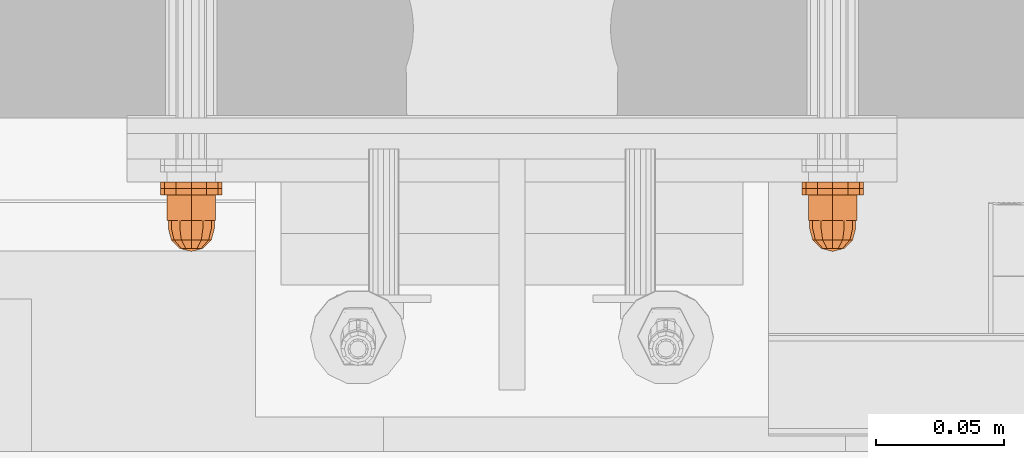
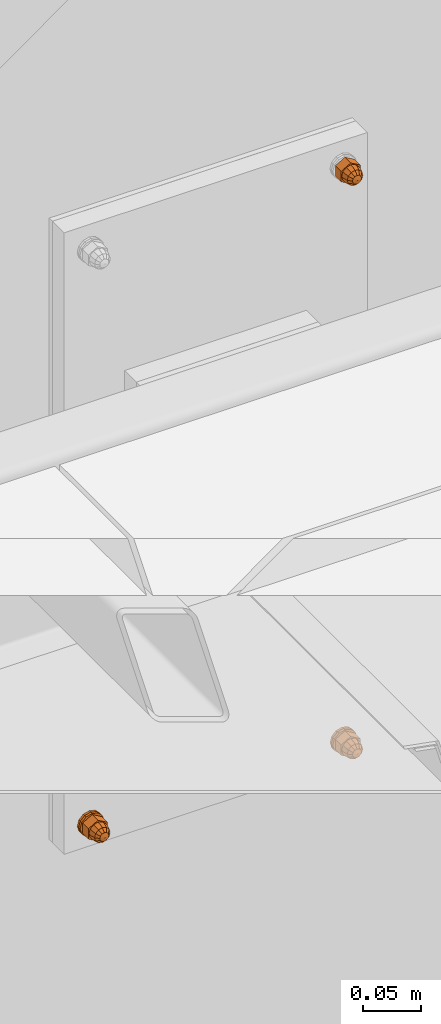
# One storey, part 157 of 162: 7 proxies.
"""IFC2X3 building model written with IfcOpenShell, lengths in millimetres."""

from ifc_helpers import new_model, entity, si_unit, converted_unit, origin_with_axes, place, context, project, spatial, faceted_brep, material, element, save


model = new_model("IFC2X3")

# Units and contexts
model_context = context("Model", 3, precision=1e-09, world=origin_with_axes())
ifc_project = project(units=[si_unit("LENGTHUNIT", "METRE", prefix="MILLI"), si_unit("AREAUNIT", "SQUARE_METRE"), si_unit("VOLUMEUNIT", "CUBIC_METRE"), converted_unit("PLANEANGLEUNIT", "DEGREE", entity("IfcPlaneAngleMeasure", 0.01745329), si_unit("PLANEANGLEUNIT", "RADIAN"), dimensions=[0, 0, 0, 0, 0, 0, 0])], contexts=[model_context])

# Site, building, storey
site_placement = place(None, origin_with_axes())
site = spatial("IfcSite", under=ifc_project, at=site_placement, Name="Hermannstra?e 1a, 60318 Frankfurt", CompositionType="ELEMENT")
building_placement = place(site_placement, origin_with_axes())
building = spatial("IfcBuilding", under=site, at=building_placement, Name="Struktur 1", CompositionType="ELEMENT")
storey_placement = place(building_placement, origin_with_axes())
storey = spatial("IfcBuildingStorey", under=building, at=storey_placement, Name="Default Storey", CompositionType="ELEMENT", Elevation=0.0)

# Proxies
ifc_material_1 = material(Name="Kunststoff")
proxy_1_placement = place(None, origin_with_axes())
element("IfcBuildingElementProxy", 1, at=proxy_1_placement, inside=storey, material=ifc_material_1, ObjectType="-", context=model_context, shape_type="Brep", body=[
    faceted_brep([(5708.702376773, 2710.610081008, 3486.0), (5708.702376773, 2708.110081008, 3486.0), (5710.310071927, 2708.110081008, 3480.0), (5710.310071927, 2710.610081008, 3480.0), (5703.939237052, 2710.610081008, 3483.25), (5701.560071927, 2710.610081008, 3485.629165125), (5698.310071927, 2710.610081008, 3486.5), (5695.060071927, 2710.610081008, 3485.629165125), (5692.680906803, 2710.610081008, 3483.25), (5691.810071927, 2710.610081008, 3480.0), (5692.680906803, 2710.610081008, 3476.75), (5695.060071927, 2710.610081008, 3474.370834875), (5698.310071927, 2710.610081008, 3473.5), (5701.560071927, 2710.610081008, 3474.370834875), (5703.939237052, 2710.610081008, 3476.75), (5704.810071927, 2710.610081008, 3480.0), (5704.810071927, 2708.110081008, 3480.0), (5703.939237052, 2708.110081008, 3483.25), (5704.310071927, 2708.110081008, 3490.392304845), (5698.310071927, 2708.110081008, 3492.0), (5692.310071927, 2708.110081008, 3490.392304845), (5687.917767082, 2708.110081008, 3486.0), (5686.310071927, 2708.110081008, 3480.0), (5687.917767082, 2708.110081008, 3474.0), (5692.310071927, 2708.110081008, 3469.607695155), (5698.310071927, 2708.110081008, 3468.0), (5704.310071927, 2708.110081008, 3469.607695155), (5708.702376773, 2708.110081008, 3474.0), (5704.310071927, 2710.610081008, 3490.392304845), (5703.939237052, 2708.110081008, 3476.75), (5708.702376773, 2710.610081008, 3474.0), (5701.560071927, 2708.110081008, 3485.629165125), (5698.310071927, 2710.610081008, 3492.0), (5701.560071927, 2708.110081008, 3474.370834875), (5704.310071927, 2710.610081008, 3469.607695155), (5698.310071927, 2708.110081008, 3486.5), (5698.310071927, 2708.110081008, 3473.5), (5692.310071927, 2710.610081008, 3490.392304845), (5695.060071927, 2708.110081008, 3485.629165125), (5698.310071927, 2710.610081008, 3468.0), (5695.060071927, 2708.110081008, 3474.370834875), (5687.917767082, 2710.610081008, 3486.0), (5692.680906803, 2708.110081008, 3483.25), (5692.310071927, 2710.610081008, 3469.607695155), (5692.680906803, 2708.110081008, 3476.75), (5686.310071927, 2710.610081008, 3480.0), (5691.810071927, 2708.110081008, 3480.0), (5687.917767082, 2710.610081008, 3474.0)], [[[0, 1, 2, 3]], [[4, 5, 6, 7, 8, 9, 10, 11, 12, 13, 14, 15]], [[15, 16, 17, 4]], [[1, 18, 19, 20, 21, 22, 23, 24, 25, 26, 27, 2]], [[1, 0, 28, 18]], [[16, 15, 14, 29]], [[3, 2, 27, 30]], [[4, 17, 31, 5]], [[18, 28, 32, 19]], [[29, 14, 13, 33]], [[30, 27, 26, 34]], [[5, 31, 35, 6]], [[33, 13, 12, 36]], [[19, 32, 37, 20]], [[6, 35, 38, 7]], [[34, 26, 25, 39]], [[36, 12, 11, 40]], [[20, 37, 41, 21]], [[7, 38, 42, 8]], [[39, 25, 24, 43]], [[40, 11, 10, 44]], [[21, 41, 45, 22]], [[8, 42, 46, 9]], [[43, 24, 23, 47]], [[44, 10, 9, 46]], [[22, 45, 47, 23]]]),
])
ifc_material_2 = material(Name="A4")
proxy_2_placement = place(None, origin_with_axes())
element("IfcBuildingElementProxy", 2, at=proxy_2_placement, inside=storey, material=ifc_material_2, ObjectType="-", context=model_context, shape_type="Brep", body=[
    faceted_brep([(5687.917767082, 2708.110081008, 3486.0), (5687.917767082, 2705.610081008, 3486.0), (5692.310071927, 2705.610081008, 3490.392304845), (5692.310071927, 2708.110081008, 3490.392304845), (5686.310071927, 2705.610081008, 3480.0), (5687.917767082, 2705.610081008, 3474.0), (5692.310071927, 2705.610081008, 3469.607695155), (5698.310071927, 2705.610081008, 3468.0), (5704.310071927, 2705.610081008, 3469.607695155), (5708.702376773, 2705.610081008, 3474.0), (5710.310071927, 2705.610081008, 3480.0), (5708.702376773, 2705.610081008, 3486.0), (5704.310071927, 2705.610081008, 3490.392304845), (5698.310071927, 2705.610081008, 3492.0), (5698.310071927, 2705.610081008, 3486.5), (5701.560071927, 2705.610081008, 3485.629165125), (5703.939237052, 2705.610081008, 3483.25), (5704.810071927, 2705.610081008, 3480.0), (5703.939237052, 2705.610081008, 3476.75), (5701.560071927, 2705.610081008, 3474.370834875), (5698.310071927, 2705.610081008, 3473.5), (5695.060071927, 2705.610081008, 3474.370834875), (5692.680906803, 2705.610081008, 3476.75), (5691.810071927, 2705.610081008, 3480.0), (5692.680906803, 2705.610081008, 3483.25), (5695.060071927, 2705.610081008, 3485.629165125), (5692.680906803, 2708.110081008, 3483.25), (5691.810071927, 2708.110081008, 3480.0), (5692.680906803, 2708.110081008, 3476.75), (5695.060071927, 2708.110081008, 3474.370834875), (5698.310071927, 2708.110081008, 3473.5), (5701.560071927, 2708.110081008, 3474.370834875), (5703.939237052, 2708.110081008, 3476.75), (5704.810071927, 2708.110081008, 3480.0), (5703.939237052, 2708.110081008, 3483.25), (5701.560071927, 2708.110081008, 3485.629165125), (5698.310071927, 2708.110081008, 3486.5), (5695.060071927, 2708.110081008, 3485.629165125), (5686.310071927, 2708.110081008, 3480.0), (5698.310071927, 2708.110081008, 3492.0), (5687.917767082, 2708.110081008, 3474.0), (5704.310071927, 2708.110081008, 3490.392304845), (5692.310071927, 2708.110081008, 3469.607695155), (5708.702376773, 2708.110081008, 3486.0), (5698.310071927, 2708.110081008, 3468.0), (5710.310071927, 2708.110081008, 3480.0), (5704.310071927, 2708.110081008, 3469.607695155), (5708.702376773, 2708.110081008, 3474.0)], [[[0, 1, 2, 3]], [[2, 1, 4, 5, 6, 7, 8, 9, 10, 11, 12, 13], [14, 15, 16, 17, 18, 19, 20, 21, 22, 23, 24, 25]], [[26, 27, 28, 29, 30, 31, 32, 33, 34, 35, 36, 37]], [[24, 26, 37, 25]], [[1, 0, 38, 4]], [[26, 24, 23, 27]], [[25, 37, 36, 14]], [[3, 2, 13, 39]], [[4, 38, 40, 5]], [[27, 23, 22, 28]], [[14, 36, 35, 15]], [[39, 13, 12, 41]], [[5, 40, 42, 6]], [[28, 22, 21, 29]], [[15, 35, 34, 16]], [[41, 12, 11, 43]], [[33, 17, 16, 34]], [[6, 42, 44, 7]], [[29, 21, 20, 30]], [[32, 18, 17, 33]], [[43, 11, 10, 45]], [[19, 31, 30, 20]], [[18, 32, 31, 19]], [[7, 44, 46, 8]], [[45, 10, 9, 47]], [[8, 46, 47, 9]]]),
])
proxy_3_placement = place(None, origin_with_axes())
element("IfcBuildingElementProxy", 3, at=proxy_3_placement, inside=storey, material=ifc_material_2, ObjectType="-", context=model_context, shape_type="Brep", body=[
    faceted_brep([(5704.310071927, 2695.610081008, 3480.0), (5704.310071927, 2705.610081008, 3480.0), (5703.50622435, 2705.610081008, 3477.0), (5703.50622435, 2695.610081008, 3477.0), (5701.310071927, 2705.610081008, 3474.803847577), (5701.310071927, 2695.610081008, 3474.803847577), (5703.50622435, 2695.610081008, 3483.0), (5703.50622435, 2705.610081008, 3483.0), (5707.789941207, 2705.610081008, 3485.473205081), (5707.789941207, 2705.610081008, 3474.526794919), (5698.310071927, 2705.610081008, 3469.053589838), (5688.830202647, 2705.610081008, 3474.526794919), (5688.830202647, 2705.610081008, 3485.473205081), (5698.310071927, 2705.610081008, 3490.946410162), (5701.310071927, 2705.610081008, 3485.196152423), (5698.310071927, 2705.610081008, 3486.0), (5695.310071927, 2705.610081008, 3485.196152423), (5693.113919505, 2705.610081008, 3483.0), (5692.310071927, 2705.610081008, 3480.0), (5693.113919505, 2705.610081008, 3477.0), (5695.310071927, 2705.610081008, 3474.803847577), (5698.310071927, 2705.610081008, 3474.0), (5707.789941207, 2695.610081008, 3485.473205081), (5698.310071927, 2695.610081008, 3490.946410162), (5688.830202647, 2695.610081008, 3485.473205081), (5688.830202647, 2695.610081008, 3474.526794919), (5698.310071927, 2695.610081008, 3469.053589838), (5707.789941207, 2695.610081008, 3474.526794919), (5701.310071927, 2695.610081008, 3485.196152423), (5698.310071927, 2695.610081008, 3474.0), (5698.310071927, 2695.610081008, 3486.0), (5695.310071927, 2695.610081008, 3474.803847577), (5695.310071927, 2695.610081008, 3485.196152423), (5693.113919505, 2695.610081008, 3477.0), (5693.113919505, 2695.610081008, 3483.0), (5692.310071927, 2695.610081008, 3480.0)], [[[0, 1, 2, 3]], [[3, 2, 4, 5]], [[1, 0, 6, 7]], [[8, 9, 10, 11, 12, 13], [7, 14, 15, 16, 17, 18, 19, 20, 21, 4, 2, 1]], [[22, 23, 24, 25, 26, 27]], [[7, 6, 28, 14]], [[22, 27, 9, 8]], [[5, 4, 21, 29]], [[10, 9, 27, 26]], [[14, 28, 30, 15]], [[23, 22, 8, 13]], [[29, 21, 20, 31]], [[11, 10, 26, 25]], [[15, 30, 32, 16]], [[24, 23, 13, 12]], [[31, 20, 19, 33]], [[25, 24, 12, 11]], [[16, 32, 34, 17]], [[33, 19, 18, 35]], [[17, 34, 35, 18]]]),
    faceted_brep([(5698.310071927, 2692.610081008, 3489.0), (5698.310071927, 2695.610081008, 3489.0), (5693.810071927, 2695.610081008, 3487.794228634), (5693.810071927, 2692.610081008, 3487.794228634), (5702.810071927, 2692.610081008, 3487.794228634), (5702.810071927, 2695.610081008, 3487.794228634), (5702.810071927, 2692.610081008, 3472.205771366), (5706.104300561, 2692.610081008, 3475.5), (5707.310071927, 2692.610081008, 3480.0), (5706.104300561, 2692.610081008, 3484.5), (5690.515843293, 2692.610081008, 3484.5), (5689.310071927, 2692.610081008, 3480.0), (5690.515843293, 2692.610081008, 3475.5), (5693.810071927, 2692.610081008, 3472.205771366), (5698.310071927, 2692.610081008, 3471.0), (5693.810071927, 2695.610081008, 3472.205771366), (5690.515843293, 2695.610081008, 3475.5), (5689.310071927, 2695.610081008, 3480.0), (5690.515843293, 2695.610081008, 3484.5), (5706.104300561, 2695.610081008, 3484.5), (5707.310071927, 2695.610081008, 3480.0), (5706.104300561, 2695.610081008, 3475.5), (5702.810071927, 2695.610081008, 3472.205771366), (5698.310071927, 2695.610081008, 3471.0)], [[[0, 1, 2, 3]], [[1, 0, 4, 5]], [[6, 7, 8, 9, 4, 0, 3, 10, 11, 12, 13, 14]], [[15, 16, 17, 18, 2, 1, 5, 19, 20, 21, 22, 23]], [[3, 2, 18, 10]], [[5, 4, 9, 19]], [[10, 18, 17, 11]], [[19, 9, 8, 20]], [[22, 6, 14, 23]], [[7, 21, 20, 8]], [[6, 22, 21, 7]], [[11, 17, 16, 12]], [[23, 14, 13, 15]], [[12, 16, 15, 13]]]),
    faceted_brep([(5705.060071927, 2688.110081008, 3483.897114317), (5706.104300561, 2692.610081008, 3484.5), (5702.810071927, 2692.610081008, 3487.794228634), (5702.207186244, 2688.110081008, 3486.75), (5693.810071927, 2692.610081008, 3472.205771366), (5690.515843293, 2692.610081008, 3475.5), (5689.310071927, 2692.610081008, 3480.0), (5690.515843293, 2692.610081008, 3484.5), (5693.810071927, 2692.610081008, 3487.794228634), (5698.310071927, 2692.610081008, 3489.0), (5707.310071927, 2692.610081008, 3480.0), (5706.104300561, 2692.610081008, 3475.5), (5702.810071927, 2692.610081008, 3472.205771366), (5698.310071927, 2692.610081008, 3471.0), (5698.310071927, 2688.110081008, 3487.794228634), (5702.810071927, 2684.815852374, 3480.0), (5706.104300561, 2688.110081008, 3480.0), (5702.207186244, 2684.815852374, 3482.25), (5694.41295761, 2688.110081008, 3486.75), (5700.560071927, 2684.815852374, 3483.897114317), (5702.207186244, 2684.815852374, 3477.75), (5705.060071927, 2688.110081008, 3476.102885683), (5698.310071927, 2684.815852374, 3484.5), (5698.310071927, 2683.610081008, 3480.0), (5700.560071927, 2684.815852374, 3476.102885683), (5702.207186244, 2688.110081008, 3473.25), (5698.310071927, 2688.110081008, 3472.205771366), (5691.560071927, 2688.110081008, 3483.897114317), (5696.060071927, 2684.815852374, 3483.897114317), (5698.310071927, 2684.815852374, 3475.5), (5694.41295761, 2688.110081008, 3473.25), (5696.060071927, 2684.815852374, 3476.102885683), (5690.515843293, 2688.110081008, 3480.0), (5694.41295761, 2684.815852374, 3482.25), (5691.560071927, 2688.110081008, 3476.102885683), (5694.41295761, 2684.815852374, 3477.75), (5693.810071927, 2684.815852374, 3480.0)], [[[0, 1, 2, 3]], [[4, 5, 6, 7, 8, 9, 2, 1, 10, 11, 12, 13]], [[3, 2, 9, 14]], [[15, 16, 0, 17]], [[1, 0, 16, 10]], [[14, 9, 8, 18]], [[17, 0, 3, 19]], [[16, 15, 20, 21]], [[19, 3, 14, 22]], [[17, 23, 15]], [[24, 25, 21, 20]], [[15, 23, 20]], [[12, 25, 26, 13]], [[11, 21, 25, 12]], [[10, 16, 21, 11]], [[18, 8, 7, 27]], [[22, 14, 18, 28]], [[19, 23, 17]], [[29, 26, 25, 24]], [[20, 23, 24]], [[22, 23, 19]], [[13, 26, 30, 4]], [[26, 29, 31, 30]], [[24, 23, 29]], [[27, 7, 6, 32]], [[28, 18, 27, 33]], [[28, 23, 22]], [[29, 23, 31]], [[33, 23, 28]], [[4, 30, 34, 5]], [[30, 31, 35, 34]], [[31, 23, 35]], [[32, 6, 5, 34]], [[33, 27, 32, 36]], [[36, 23, 33]], [[35, 23, 36]], [[34, 35, 36, 32]]]),
])
proxy_4_placement = place(None, origin_with_axes())
element("IfcBuildingElementProxy", 4, at=proxy_4_placement, inside=storey, material=ifc_material_1, ObjectType="-", context=model_context, shape_type="Brep", body=[
    faceted_brep([(5458.702376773, 2710.610081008, 3486.0), (5458.702376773, 2708.110081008, 3486.0), (5460.310071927, 2708.110081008, 3480.0), (5460.310071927, 2710.610081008, 3480.0), (5453.939237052, 2710.610081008, 3483.25), (5451.560071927, 2710.610081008, 3485.629165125), (5448.310071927, 2710.610081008, 3486.5), (5445.060071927, 2710.610081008, 3485.629165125), (5442.680906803, 2710.610081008, 3483.25), (5441.810071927, 2710.610081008, 3480.0), (5442.680906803, 2710.610081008, 3476.75), (5445.060071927, 2710.610081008, 3474.370834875), (5448.310071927, 2710.610081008, 3473.5), (5451.560071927, 2710.610081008, 3474.370834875), (5453.939237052, 2710.610081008, 3476.75), (5454.810071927, 2710.610081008, 3480.0), (5454.810071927, 2708.110081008, 3480.0), (5453.939237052, 2708.110081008, 3483.25), (5454.310071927, 2708.110081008, 3490.392304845), (5448.310071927, 2708.110081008, 3492.0), (5442.310071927, 2708.110081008, 3490.392304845), (5437.917767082, 2708.110081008, 3486.0), (5436.310071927, 2708.110081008, 3480.0), (5437.917767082, 2708.110081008, 3474.0), (5442.310071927, 2708.110081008, 3469.607695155), (5448.310071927, 2708.110081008, 3468.0), (5454.310071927, 2708.110081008, 3469.607695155), (5458.702376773, 2708.110081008, 3474.0), (5454.310071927, 2710.610081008, 3490.392304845), (5453.939237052, 2708.110081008, 3476.75), (5458.702376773, 2710.610081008, 3474.0), (5451.560071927, 2708.110081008, 3485.629165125), (5448.310071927, 2710.610081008, 3492.0), (5451.560071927, 2708.110081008, 3474.370834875), (5454.310071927, 2710.610081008, 3469.607695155), (5448.310071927, 2708.110081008, 3486.5), (5448.310071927, 2708.110081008, 3473.5), (5442.310071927, 2710.610081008, 3490.392304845), (5445.060071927, 2708.110081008, 3485.629165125), (5448.310071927, 2710.610081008, 3468.0), (5445.060071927, 2708.110081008, 3474.370834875), (5437.917767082, 2710.610081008, 3486.0), (5442.680906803, 2708.110081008, 3483.25), (5442.310071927, 2710.610081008, 3469.607695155), (5442.680906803, 2708.110081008, 3476.75), (5436.310071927, 2710.610081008, 3480.0), (5441.810071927, 2708.110081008, 3480.0), (5437.917767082, 2710.610081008, 3474.0)], [[[0, 1, 2, 3]], [[4, 5, 6, 7, 8, 9, 10, 11, 12, 13, 14, 15]], [[15, 16, 17, 4]], [[1, 18, 19, 20, 21, 22, 23, 24, 25, 26, 27, 2]], [[1, 0, 28, 18]], [[16, 15, 14, 29]], [[3, 2, 27, 30]], [[4, 17, 31, 5]], [[18, 28, 32, 19]], [[29, 14, 13, 33]], [[30, 27, 26, 34]], [[5, 31, 35, 6]], [[33, 13, 12, 36]], [[19, 32, 37, 20]], [[6, 35, 38, 7]], [[34, 26, 25, 39]], [[36, 12, 11, 40]], [[20, 37, 41, 21]], [[7, 38, 42, 8]], [[39, 25, 24, 43]], [[40, 11, 10, 44]], [[21, 41, 45, 22]], [[8, 42, 46, 9]], [[43, 24, 23, 47]], [[44, 10, 9, 46]], [[22, 45, 47, 23]]]),
])
proxy_5_placement = place(None, origin_with_axes())
element("IfcBuildingElementProxy", 5, at=proxy_5_placement, inside=storey, material=ifc_material_2, ObjectType="-", context=model_context, shape_type="Brep", body=[
    faceted_brep([(5437.917767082, 2708.110081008, 3486.0), (5437.917767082, 2705.610081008, 3486.0), (5442.310071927, 2705.610081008, 3490.392304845), (5442.310071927, 2708.110081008, 3490.392304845), (5436.310071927, 2705.610081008, 3480.0), (5437.917767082, 2705.610081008, 3474.0), (5442.310071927, 2705.610081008, 3469.607695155), (5448.310071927, 2705.610081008, 3468.0), (5454.310071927, 2705.610081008, 3469.607695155), (5458.702376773, 2705.610081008, 3474.0), (5460.310071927, 2705.610081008, 3480.0), (5458.702376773, 2705.610081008, 3486.0), (5454.310071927, 2705.610081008, 3490.392304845), (5448.310071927, 2705.610081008, 3492.0), (5448.310071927, 2705.610081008, 3486.5), (5451.560071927, 2705.610081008, 3485.629165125), (5453.939237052, 2705.610081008, 3483.25), (5454.810071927, 2705.610081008, 3480.0), (5453.939237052, 2705.610081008, 3476.75), (5451.560071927, 2705.610081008, 3474.370834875), (5448.310071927, 2705.610081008, 3473.5), (5445.060071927, 2705.610081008, 3474.370834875), (5442.680906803, 2705.610081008, 3476.75), (5441.810071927, 2705.610081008, 3480.0), (5442.680906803, 2705.610081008, 3483.25), (5445.060071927, 2705.610081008, 3485.629165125), (5442.680906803, 2708.110081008, 3483.25), (5441.810071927, 2708.110081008, 3480.0), (5442.680906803, 2708.110081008, 3476.75), (5445.060071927, 2708.110081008, 3474.370834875), (5448.310071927, 2708.110081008, 3473.5), (5451.560071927, 2708.110081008, 3474.370834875), (5453.939237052, 2708.110081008, 3476.75), (5454.810071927, 2708.110081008, 3480.0), (5453.939237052, 2708.110081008, 3483.25), (5451.560071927, 2708.110081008, 3485.629165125), (5448.310071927, 2708.110081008, 3486.5), (5445.060071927, 2708.110081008, 3485.629165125), (5436.310071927, 2708.110081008, 3480.0), (5448.310071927, 2708.110081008, 3492.0), (5437.917767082, 2708.110081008, 3474.0), (5454.310071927, 2708.110081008, 3490.392304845), (5442.310071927, 2708.110081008, 3469.607695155), (5458.702376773, 2708.110081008, 3486.0), (5448.310071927, 2708.110081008, 3468.0), (5460.310071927, 2708.110081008, 3480.0), (5454.310071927, 2708.110081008, 3469.607695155), (5458.702376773, 2708.110081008, 3474.0)], [[[0, 1, 2, 3]], [[2, 1, 4, 5, 6, 7, 8, 9, 10, 11, 12, 13], [14, 15, 16, 17, 18, 19, 20, 21, 22, 23, 24, 25]], [[26, 27, 28, 29, 30, 31, 32, 33, 34, 35, 36, 37]], [[24, 26, 37, 25]], [[1, 0, 38, 4]], [[26, 24, 23, 27]], [[25, 37, 36, 14]], [[3, 2, 13, 39]], [[4, 38, 40, 5]], [[27, 23, 22, 28]], [[14, 36, 35, 15]], [[39, 13, 12, 41]], [[5, 40, 42, 6]], [[28, 22, 21, 29]], [[15, 35, 34, 16]], [[41, 12, 11, 43]], [[33, 17, 16, 34]], [[6, 42, 44, 7]], [[29, 21, 20, 30]], [[32, 18, 17, 33]], [[43, 11, 10, 45]], [[19, 31, 30, 20]], [[18, 32, 31, 19]], [[7, 44, 46, 8]], [[45, 10, 9, 47]], [[8, 46, 47, 9]]]),
])
proxy_6_placement = place(None, origin_with_axes())
element("IfcBuildingElementProxy", 6, at=proxy_6_placement, inside=storey, material=ifc_material_2, ObjectType="-", context=model_context, shape_type="Brep", body=[
    faceted_brep([(5454.310071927, 2695.610081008, 3480.0), (5454.310071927, 2705.610081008, 3480.0), (5453.50622435, 2705.610081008, 3477.0), (5453.50622435, 2695.610081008, 3477.0), (5451.310071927, 2705.610081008, 3474.803847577), (5451.310071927, 2695.610081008, 3474.803847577), (5453.50622435, 2695.610081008, 3483.0), (5453.50622435, 2705.610081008, 3483.0), (5457.789941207, 2705.610081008, 3485.473205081), (5457.789941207, 2705.610081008, 3474.526794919), (5448.310071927, 2705.610081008, 3469.053589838), (5438.830202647, 2705.610081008, 3474.526794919), (5438.830202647, 2705.610081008, 3485.473205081), (5448.310071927, 2705.610081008, 3490.946410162), (5451.310071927, 2705.610081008, 3485.196152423), (5448.310071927, 2705.610081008, 3486.0), (5445.310071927, 2705.610081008, 3485.196152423), (5443.113919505, 2705.610081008, 3483.0), (5442.310071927, 2705.610081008, 3480.0), (5443.113919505, 2705.610081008, 3477.0), (5445.310071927, 2705.610081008, 3474.803847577), (5448.310071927, 2705.610081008, 3474.0), (5457.789941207, 2695.610081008, 3485.473205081), (5448.310071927, 2695.610081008, 3490.946410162), (5438.830202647, 2695.610081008, 3485.473205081), (5438.830202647, 2695.610081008, 3474.526794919), (5448.310071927, 2695.610081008, 3469.053589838), (5457.789941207, 2695.610081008, 3474.526794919), (5451.310071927, 2695.610081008, 3485.196152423), (5448.310071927, 2695.610081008, 3474.0), (5448.310071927, 2695.610081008, 3486.0), (5445.310071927, 2695.610081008, 3474.803847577), (5445.310071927, 2695.610081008, 3485.196152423), (5443.113919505, 2695.610081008, 3477.0), (5443.113919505, 2695.610081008, 3483.0), (5442.310071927, 2695.610081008, 3480.0)], [[[0, 1, 2, 3]], [[3, 2, 4, 5]], [[1, 0, 6, 7]], [[8, 9, 10, 11, 12, 13], [7, 14, 15, 16, 17, 18, 19, 20, 21, 4, 2, 1]], [[22, 23, 24, 25, 26, 27]], [[7, 6, 28, 14]], [[22, 27, 9, 8]], [[5, 4, 21, 29]], [[10, 9, 27, 26]], [[14, 28, 30, 15]], [[23, 22, 8, 13]], [[29, 21, 20, 31]], [[11, 10, 26, 25]], [[15, 30, 32, 16]], [[24, 23, 13, 12]], [[31, 20, 19, 33]], [[25, 24, 12, 11]], [[16, 32, 34, 17]], [[33, 19, 18, 35]], [[17, 34, 35, 18]]]),
    faceted_brep([(5448.310071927, 2692.610081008, 3489.0), (5448.310071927, 2695.610081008, 3489.0), (5443.810071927, 2695.610081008, 3487.794228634), (5443.810071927, 2692.610081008, 3487.794228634), (5452.810071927, 2692.610081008, 3487.794228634), (5452.810071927, 2695.610081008, 3487.794228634), (5452.810071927, 2692.610081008, 3472.205771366), (5456.104300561, 2692.610081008, 3475.5), (5457.310071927, 2692.610081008, 3480.0), (5456.104300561, 2692.610081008, 3484.5), (5440.515843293, 2692.610081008, 3484.5), (5439.310071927, 2692.610081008, 3480.0), (5440.515843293, 2692.610081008, 3475.5), (5443.810071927, 2692.610081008, 3472.205771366), (5448.310071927, 2692.610081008, 3471.0), (5443.810071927, 2695.610081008, 3472.205771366), (5440.515843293, 2695.610081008, 3475.5), (5439.310071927, 2695.610081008, 3480.0), (5440.515843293, 2695.610081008, 3484.5), (5456.104300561, 2695.610081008, 3484.5), (5457.310071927, 2695.610081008, 3480.0), (5456.104300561, 2695.610081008, 3475.5), (5452.810071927, 2695.610081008, 3472.205771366), (5448.310071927, 2695.610081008, 3471.0)], [[[0, 1, 2, 3]], [[1, 0, 4, 5]], [[6, 7, 8, 9, 4, 0, 3, 10, 11, 12, 13, 14]], [[15, 16, 17, 18, 2, 1, 5, 19, 20, 21, 22, 23]], [[3, 2, 18, 10]], [[5, 4, 9, 19]], [[10, 18, 17, 11]], [[19, 9, 8, 20]], [[22, 6, 14, 23]], [[7, 21, 20, 8]], [[6, 22, 21, 7]], [[11, 17, 16, 12]], [[23, 14, 13, 15]], [[12, 16, 15, 13]]]),
    faceted_brep([(5455.060071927, 2688.110081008, 3483.897114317), (5456.104300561, 2692.610081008, 3484.5), (5452.810071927, 2692.610081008, 3487.794228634), (5452.207186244, 2688.110081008, 3486.75), (5443.810071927, 2692.610081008, 3472.205771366), (5440.515843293, 2692.610081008, 3475.5), (5439.310071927, 2692.610081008, 3480.0), (5440.515843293, 2692.610081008, 3484.5), (5443.810071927, 2692.610081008, 3487.794228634), (5448.310071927, 2692.610081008, 3489.0), (5457.310071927, 2692.610081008, 3480.0), (5456.104300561, 2692.610081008, 3475.5), (5452.810071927, 2692.610081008, 3472.205771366), (5448.310071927, 2692.610081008, 3471.0), (5448.310071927, 2688.110081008, 3487.794228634), (5452.810071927, 2684.815852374, 3480.0), (5456.104300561, 2688.110081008, 3480.0), (5452.207186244, 2684.815852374, 3482.25), (5444.41295761, 2688.110081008, 3486.75), (5450.560071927, 2684.815852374, 3483.897114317), (5452.207186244, 2684.815852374, 3477.75), (5455.060071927, 2688.110081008, 3476.102885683), (5448.310071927, 2684.815852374, 3484.5), (5448.310071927, 2683.610081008, 3480.0), (5450.560071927, 2684.815852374, 3476.102885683), (5452.207186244, 2688.110081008, 3473.25), (5448.310071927, 2688.110081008, 3472.205771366), (5441.560071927, 2688.110081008, 3483.897114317), (5446.060071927, 2684.815852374, 3483.897114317), (5448.310071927, 2684.815852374, 3475.5), (5444.41295761, 2688.110081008, 3473.25), (5446.060071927, 2684.815852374, 3476.102885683), (5440.515843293, 2688.110081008, 3480.0), (5444.41295761, 2684.815852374, 3482.25), (5441.560071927, 2688.110081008, 3476.102885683), (5444.41295761, 2684.815852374, 3477.75), (5443.810071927, 2684.815852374, 3480.0)], [[[0, 1, 2, 3]], [[4, 5, 6, 7, 8, 9, 2, 1, 10, 11, 12, 13]], [[3, 2, 9, 14]], [[15, 16, 0, 17]], [[1, 0, 16, 10]], [[14, 9, 8, 18]], [[17, 0, 3, 19]], [[16, 15, 20, 21]], [[19, 3, 14, 22]], [[17, 23, 15]], [[24, 25, 21, 20]], [[15, 23, 20]], [[12, 25, 26, 13]], [[11, 21, 25, 12]], [[10, 16, 21, 11]], [[18, 8, 7, 27]], [[22, 14, 18, 28]], [[19, 23, 17]], [[29, 26, 25, 24]], [[20, 23, 24]], [[22, 23, 19]], [[13, 26, 30, 4]], [[26, 29, 31, 30]], [[24, 23, 29]], [[27, 7, 6, 32]], [[28, 18, 27, 33]], [[28, 23, 22]], [[29, 23, 31]], [[33, 23, 28]], [[4, 30, 34, 5]], [[30, 31, 35, 34]], [[31, 23, 35]], [[32, 6, 5, 34]], [[33, 27, 32, 36]], [[36, 23, 33]], [[35, 23, 36]], [[34, 35, 36, 32]]]),
])
proxy_7_placement = place(None, origin_with_axes())
element("IfcBuildingElementProxy", 7, at=proxy_7_placement, inside=storey, material=ifc_material_2, ObjectType="-", context=model_context, shape_type="Brep", body=[
    faceted_brep([(5704.310071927, 2705.610081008, 4080.0), (5704.310071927, 2695.610081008, 4080.0), (5703.50622435, 2695.610081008, 4083.0), (5703.50622435, 2705.610081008, 4083.0), (5701.310071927, 2695.610081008, 4085.196152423), (5701.310071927, 2705.610081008, 4085.196152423), (5703.50622435, 2705.610081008, 4077.0), (5703.50622435, 2695.610081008, 4077.0), (5707.789941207, 2705.610081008, 4074.526794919), (5698.310071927, 2705.610081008, 4069.053589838), (5688.830202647, 2705.610081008, 4074.526794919), (5688.830202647, 2705.610081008, 4085.473205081), (5698.310071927, 2705.610081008, 4090.946410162), (5707.789941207, 2705.610081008, 4085.473205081), (5701.310071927, 2705.610081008, 4074.803847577), (5698.310071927, 2705.610081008, 4086.0), (5695.310071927, 2705.610081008, 4085.196152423), (5693.113919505, 2705.610081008, 4083.0), (5692.310071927, 2705.610081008, 4080.0), (5693.113919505, 2705.610081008, 4077.0), (5695.310071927, 2705.610081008, 4074.803847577), (5698.310071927, 2705.610081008, 4074.0), (5698.310071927, 2695.610081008, 4069.053589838), (5707.789941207, 2695.610081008, 4074.526794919), (5707.789941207, 2695.610081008, 4085.473205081), (5698.310071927, 2695.610081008, 4090.946410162), (5688.830202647, 2695.610081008, 4085.473205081), (5688.830202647, 2695.610081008, 4074.526794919), (5701.310071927, 2695.610081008, 4074.803847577), (5698.310071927, 2695.610081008, 4074.0), (5695.310071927, 2695.610081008, 4074.803847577), (5693.113919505, 2695.610081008, 4077.0), (5692.310071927, 2695.610081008, 4080.0), (5693.113919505, 2695.610081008, 4083.0), (5695.310071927, 2695.610081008, 4085.196152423), (5698.310071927, 2695.610081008, 4086.0)], [[[0, 1, 2, 3]], [[3, 2, 4, 5]], [[1, 0, 6, 7]], [[8, 9, 10, 11, 12, 13], [14, 6, 0, 3, 5, 15, 16, 17, 18, 19, 20, 21]], [[22, 23, 24, 25, 26, 27], [1, 7, 28, 29, 30, 31, 32, 33, 34, 35, 4, 2]], [[7, 6, 14, 28]], [[24, 23, 8, 13]], [[5, 4, 35, 15]], [[13, 12, 25, 24]], [[28, 14, 21, 29]], [[23, 22, 9, 8]], [[15, 35, 34, 16]], [[12, 11, 26, 25]], [[29, 21, 20, 30]], [[22, 27, 10, 9]], [[16, 34, 33, 17]], [[27, 26, 11, 10]], [[30, 20, 19, 31]], [[17, 33, 32, 18]], [[31, 19, 18, 32]]]),
    faceted_brep([(5698.310071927, 2695.610081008, 4071.0), (5698.310071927, 2692.610081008, 4071.0), (5693.810071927, 2692.610081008, 4072.205771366), (5693.810071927, 2695.610081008, 4072.205771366), (5702.810071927, 2695.610081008, 4072.205771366), (5702.810071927, 2692.610081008, 4072.205771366), (5706.104300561, 2692.610081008, 4084.5), (5702.810071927, 2692.610081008, 4087.794228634), (5698.310071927, 2692.610081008, 4089.0), (5693.810071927, 2692.610081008, 4087.794228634), (5690.515843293, 2692.610081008, 4084.5), (5689.310071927, 2692.610081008, 4080.0), (5690.515843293, 2692.610081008, 4075.5), (5706.104300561, 2692.610081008, 4075.5), (5707.310071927, 2692.610081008, 4080.0), (5690.515843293, 2695.610081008, 4084.5), (5693.810071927, 2695.610081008, 4087.794228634), (5698.310071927, 2695.610081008, 4089.0), (5702.810071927, 2695.610081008, 4087.794228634), (5706.104300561, 2695.610081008, 4084.5), (5707.310071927, 2695.610081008, 4080.0), (5706.104300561, 2695.610081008, 4075.5), (5690.515843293, 2695.610081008, 4075.5), (5689.310071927, 2695.610081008, 4080.0)], [[[0, 1, 2, 3]], [[1, 0, 4, 5]], [[6, 7, 8, 9, 10, 11, 12, 2, 1, 5, 13, 14]], [[15, 16, 17, 18, 19, 20, 21, 4, 0, 3, 22, 23]], [[3, 2, 12, 22]], [[5, 4, 21, 13]], [[22, 12, 11, 23]], [[13, 21, 20, 14]], [[7, 18, 17, 8]], [[19, 6, 14, 20]], [[18, 7, 6, 19]], [[23, 11, 10, 15]], [[8, 17, 16, 9]], [[15, 10, 9, 16]]]),
    faceted_brep([(5706.104300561, 2692.610081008, 4075.5), (5705.060071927, 2688.110081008, 4076.102885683), (5702.207186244, 2688.110081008, 4073.25), (5702.810071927, 2692.610081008, 4072.205771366), (5690.515843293, 2692.610081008, 4084.5), (5693.810071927, 2692.610081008, 4087.794228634), (5698.310071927, 2692.610081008, 4089.0), (5702.810071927, 2692.610081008, 4087.794228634), (5706.104300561, 2692.610081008, 4084.5), (5707.310071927, 2692.610081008, 4080.0), (5698.310071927, 2692.610081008, 4071.0), (5693.810071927, 2692.610081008, 4072.205771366), (5690.515843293, 2692.610081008, 4075.5), (5689.310071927, 2692.610081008, 4080.0), (5698.310071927, 2688.110081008, 4072.205771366), (5706.104300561, 2688.110081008, 4080.0), (5702.810071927, 2684.815852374, 4080.0), (5702.207186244, 2684.815852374, 4077.75), (5694.41295761, 2688.110081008, 4073.25), (5700.560071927, 2684.815852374, 4076.102885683), (5705.060071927, 2688.110081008, 4083.897114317), (5702.207186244, 2684.815852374, 4082.25), (5698.310071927, 2684.815852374, 4075.5), (5698.310071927, 2683.610081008, 4080.0), (5702.207186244, 2688.110081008, 4086.75), (5700.560071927, 2684.815852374, 4083.897114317), (5698.310071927, 2688.110081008, 4087.794228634), (5691.560071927, 2688.110081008, 4076.102885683), (5696.060071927, 2684.815852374, 4076.102885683), (5698.310071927, 2684.815852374, 4084.5), (5694.41295761, 2688.110081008, 4086.75), (5696.060071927, 2684.815852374, 4083.897114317), (5690.515843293, 2688.110081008, 4080.0), (5694.41295761, 2684.815852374, 4077.75), (5691.560071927, 2688.110081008, 4083.897114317), (5694.41295761, 2684.815852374, 4082.25), (5693.810071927, 2684.815852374, 4080.0)], [[[0, 1, 2, 3]], [[4, 5, 6, 7, 8, 9, 0, 3, 10, 11, 12, 13]], [[3, 2, 14, 10]], [[15, 16, 17, 1]], [[1, 0, 9, 15]], [[10, 14, 18, 11]], [[1, 17, 19, 2]], [[16, 15, 20, 21]], [[2, 19, 22, 14]], [[23, 17, 16]], [[24, 25, 21, 20]], [[23, 16, 21]], [[24, 7, 6, 26]], [[20, 8, 7, 24]], [[15, 9, 8, 20]], [[11, 18, 27, 12]], [[14, 22, 28, 18]], [[23, 19, 17]], [[26, 29, 25, 24]], [[23, 21, 25]], [[23, 22, 19]], [[26, 6, 5, 30]], [[29, 26, 30, 31]], [[23, 25, 29]], [[12, 27, 32, 13]], [[18, 28, 33, 27]], [[23, 28, 22]], [[23, 29, 31]], [[23, 33, 28]], [[30, 5, 4, 34]], [[31, 30, 34, 35]], [[23, 31, 35]], [[13, 32, 34, 4]], [[27, 33, 36, 32]], [[23, 36, 33]], [[23, 35, 36]], [[35, 34, 32, 36]]]),
])

save(model, "model.ifc")
